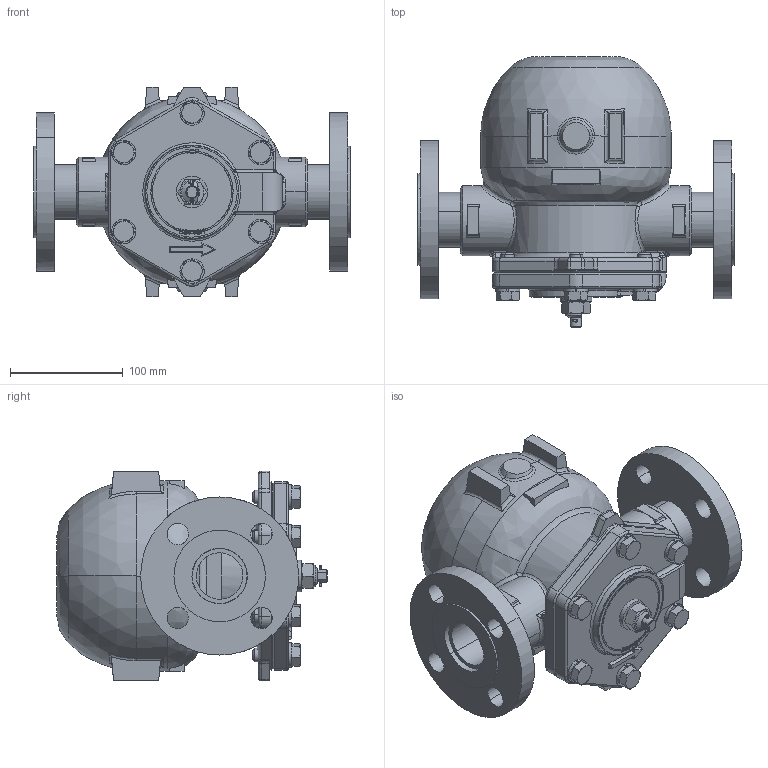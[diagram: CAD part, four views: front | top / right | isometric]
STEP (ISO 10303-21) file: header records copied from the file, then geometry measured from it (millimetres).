
FILE_DESCRIPTION( (''), '2;1');
FILE_NAME ('PC1027.12188.TSF-11SF JIS20KRF 40A_2906.stp','2025-07-31T10:54:36',(''),(''),'spGate 20.6.3 (****-****-****-****)','','');
FILE_SCHEMA (('AUTOMOTIVE_DESIGN'));
Length unit declared in the file: millimetre
Products named in the file (13): Assembly; SOP 20K 40A; CP_SUS_Q_Q''''_SUS304TP 40AxSch40x270_5126; 3D_@TSF-10_@_____s__; 3D_@TSF-10_@_Z_p_i_b_g; 3D_@TSF-10_@_J___[; 3D_@TSF-11_@________; ____; _R_b_N____; TSF-11SF JIS20KRF 40A_M1; SSLW12; ________; 3D TSF-11S 40A 本体(加)
Assembly tree (23 placements, depth 2):
  Assembly
    SOP 20K 40A  x2
    CP_SUS_Q_Q''''_SUS304TP 40AxSch40x270_5126
    3D_@TSF-10_@_____s__
    3D_@TSF-10_@_Z_p_i_b_g
    3D_@TSF-10_@_J___[
    3D_@TSF-11_@________
    ____
    _R_b_N____
    TSF-11SF JIS20KRF 40A_M1  x6
    SSLW12  x6
    ________
    3D TSF-11S 40A 本体(加)
Bounding box: 280 x 240 x 186 mm (x, y, z)
Volume: 4344453.5 mm3; surface area: 407416 mm2
Topology: 23 solids, 23 shells, 846 faces, 2873 edges, 2065 vertices
Faces by surface type: plane 354, bspline 244, cylinder 242, sphere 6
Entity records: 54296 total; most frequent: CARTESIAN_POINT 21587, ORIENTED_EDGE 4314, COLOUR_RGB 2848, PRESENTATION_STYLE_ASSIGNMENT 2848, STYLED_ITEM 2848, DIRECTION 2660, EDGE_CURVE 2157, DRAUGHTING_PRE_DEFINED_CURVE_FONT 2157
